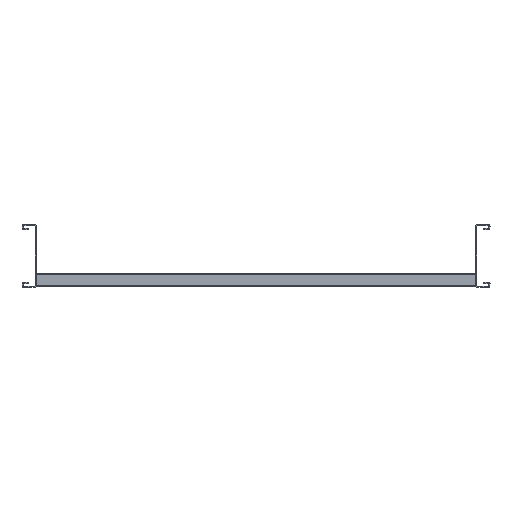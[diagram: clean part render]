
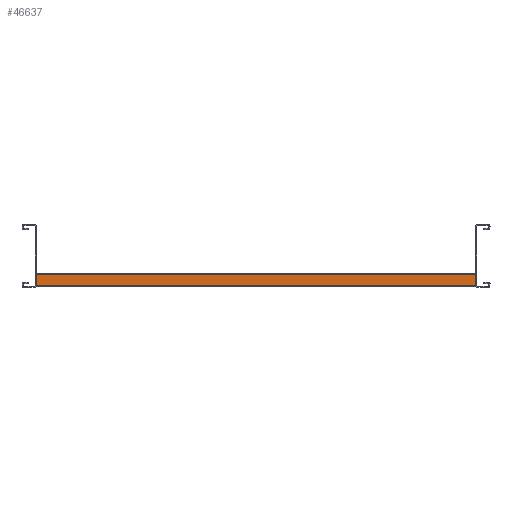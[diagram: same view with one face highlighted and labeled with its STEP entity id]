
A CAD part, left-side view. The second image highlights one B-rep face of the part: STEP entity #46637.
In plain terms, the highlighted planar face has unit normal (-1, 0, 0) as drawn and (0, 1, 0) by its records, which use the part's own axes.
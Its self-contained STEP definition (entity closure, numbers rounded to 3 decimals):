
#3243=FACE_OUTER_BOUND('',#6411,.T.);
#6411=EDGE_LOOP('',(#42024,#42025,#42026,#42027));
#12641=LINE('',#71746,#18841);
#12647=LINE('',#71763,#18847);
#12808=LINE('',#72368,#19008);
#12809=LINE('',#72370,#19009);
#18841=VECTOR('',#59036,304.8);
#18847=VECTOR('',#59048,304.8);
#19008=VECTOR('',#59517,304.8);
#19009=VECTOR('',#59520,304.8);
#23116=VERTEX_POINT('',#71743);
#23117=VERTEX_POINT('',#71745);
#23124=VERTEX_POINT('',#71760);
#23125=VERTEX_POINT('',#71762);
#29356=EDGE_CURVE('',#23116,#23117,#12641,.T.);
#29364=EDGE_CURVE('',#23124,#23125,#12647,.T.);
#29668=EDGE_CURVE('',#23125,#23116,#12808,.T.);
#29669=EDGE_CURVE('',#23124,#23117,#12809,.T.);
#42024=ORIENTED_EDGE('',*,*,#29356,.F.);
#42025=ORIENTED_EDGE('',*,*,#29668,.F.);
#42026=ORIENTED_EDGE('',*,*,#29364,.F.);
#42027=ORIENTED_EDGE('',*,*,#29669,.T.);
#44570=PLANE('',#48978);
#46637=ADVANCED_FACE('',(#3243),#44570,.T.);
#48978=AXIS2_PLACEMENT_3D('',#72369,#59518,#59519);
#59036=DIRECTION('',(0.,0.,-1.));
#59048=DIRECTION('',(0.,0.,1.));
#59517=DIRECTION('',(-1.,0.,0.));
#59518=DIRECTION('center_axis',(0.,1.,0.));
#59519=DIRECTION('ref_axis',(1.,0.,0.));
#59520=DIRECTION('',(-1.,0.,0.));
#71743=CARTESIAN_POINT('',(0.,20.,8.5));
#71745=CARTESIAN_POINT('',(0.,20.,-8.5));
#71746=CARTESIAN_POINT('',(0.,20.,8.5));
#71760=CARTESIAN_POINT('',(700.,20.,-8.5));
#71762=CARTESIAN_POINT('',(700.,20.,8.5));
#71763=CARTESIAN_POINT('',(700.,20.,-8.5));
#72368=CARTESIAN_POINT('',(0.,20.,8.5));
#72369=CARTESIAN_POINT('Origin',(0.,20.,8.5));
#72370=CARTESIAN_POINT('',(0.,20.,-8.5));
